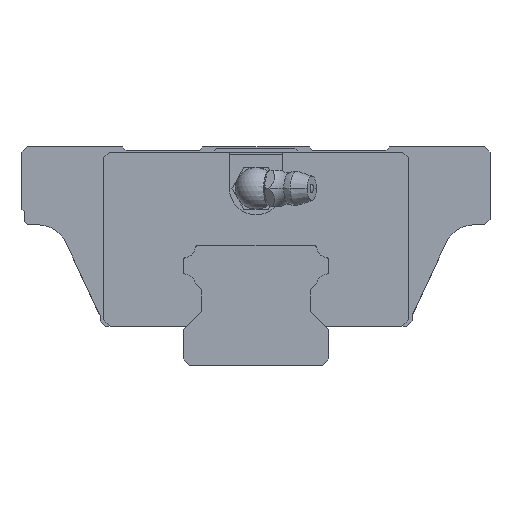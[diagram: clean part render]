
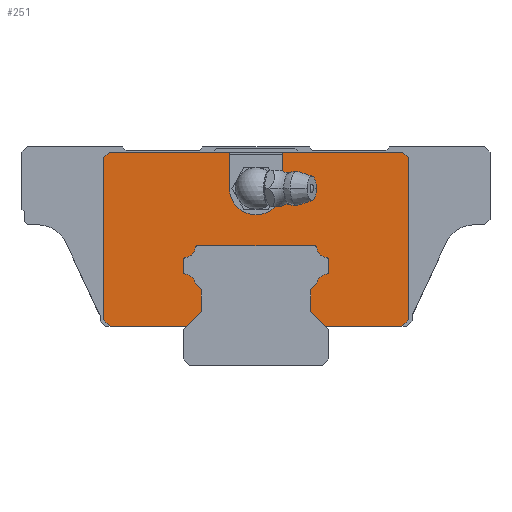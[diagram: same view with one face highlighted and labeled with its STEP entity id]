
A CAD part, front view. The second image highlights one B-rep face of the part: STEP entity #251.
In plain terms, the highlighted planar face has unit normal (0, -1, 0).
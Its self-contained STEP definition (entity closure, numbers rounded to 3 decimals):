
#251=ADVANCED_FACE('',(#605),#606,.F.);
#605=FACE_OUTER_BOUND('',#1171,.T.);
#606=PLANE('',#1172);
#1171=EDGE_LOOP('',(#2363,#2364,#2365,#2366,#2367,#2368,#2369,#2370,#2371,#2372,#2373,#2374,#2375,#2376,#2377,#2378,#2379,#2380,#2381,#2382,#2383,#2384,#2385,#2386,#2387,#2388,#2389,#2390,#2391,#2392,#2393,#2394,#2395));
#1172=AXIS2_PLACEMENT_3D('',#2396,#2397,#2398);
#2363=ORIENTED_EDGE('',*,*,#4253,.F.);
#2364=ORIENTED_EDGE('',*,*,#4216,.T.);
#2365=ORIENTED_EDGE('',*,*,#4254,.T.);
#2366=ORIENTED_EDGE('',*,*,#4255,.T.);
#2367=ORIENTED_EDGE('',*,*,#4256,.T.);
#2368=ORIENTED_EDGE('',*,*,#4257,.T.);
#2369=ORIENTED_EDGE('',*,*,#4239,.F.);
#2370=ORIENTED_EDGE('',*,*,#4199,.F.);
#2371=ORIENTED_EDGE('',*,*,#3982,.F.);
#2372=ORIENTED_EDGE('',*,*,#4221,.F.);
#2373=ORIENTED_EDGE('',*,*,#4258,.T.);
#2374=ORIENTED_EDGE('',*,*,#4186,.T.);
#2375=ORIENTED_EDGE('',*,*,#4006,.T.);
#2376=ORIENTED_EDGE('',*,*,#4259,.T.);
#2377=ORIENTED_EDGE('',*,*,#4072,.T.);
#2378=ORIENTED_EDGE('',*,*,#4209,.F.);
#2379=ORIENTED_EDGE('',*,*,#4160,.F.);
#2380=ORIENTED_EDGE('',*,*,#4260,.F.);
#2381=ORIENTED_EDGE('',*,*,#4261,.F.);
#2382=ORIENTED_EDGE('',*,*,#4262,.F.);
#2383=ORIENTED_EDGE('',*,*,#4263,.F.);
#2384=ORIENTED_EDGE('',*,*,#4264,.F.);
#2385=ORIENTED_EDGE('',*,*,#4096,.F.);
#2386=ORIENTED_EDGE('',*,*,#4265,.F.);
#2387=ORIENTED_EDGE('',*,*,#4266,.F.);
#2388=ORIENTED_EDGE('',*,*,#4267,.F.);
#2389=ORIENTED_EDGE('',*,*,#4020,.F.);
#2390=ORIENTED_EDGE('',*,*,#4015,.F.);
#2391=ORIENTED_EDGE('',*,*,#4023,.F.);
#2392=ORIENTED_EDGE('',*,*,#4268,.F.);
#2393=ORIENTED_EDGE('',*,*,#4269,.F.);
#2394=ORIENTED_EDGE('',*,*,#4270,.F.);
#2395=ORIENTED_EDGE('',*,*,#4155,.F.);
#2396=CARTESIAN_POINT('',(44.9,-26.3,24.35));
#2397=DIRECTION('',(0.0,1.0,0.0));
#2398=DIRECTION('',(1.0,0.0,0.0));
#3982=EDGE_CURVE('',#4802,#4798,#4804,.T.);
#4006=EDGE_CURVE('',#4847,#4844,#4848,.T.);
#4015=EDGE_CURVE('',#4863,#4865,#4866,.T.);
#4020=EDGE_CURVE('',#4865,#4871,#4874,.T.);
#4023=EDGE_CURVE('',#4877,#4863,#4879,.T.);
#4072=EDGE_CURVE('',#4975,#4973,#4976,.T.);
#4096=EDGE_CURVE('',#5015,#5017,#5018,.T.);
#4155=EDGE_CURVE('',#5121,#5117,#5123,.T.);
#4160=EDGE_CURVE('',#5130,#5126,#5132,.T.);
#4186=EDGE_CURVE('',#5177,#4847,#5178,.T.);
#4199=EDGE_CURVE('',#4798,#5197,#5198,.T.);
#4209=EDGE_CURVE('',#5126,#4973,#5210,.T.);
#4216=EDGE_CURVE('',#5211,#5217,#5219,.T.);
#4221=EDGE_CURVE('',#5226,#4802,#5228,.T.);
#4239=EDGE_CURVE('',#5197,#5245,#5253,.T.);
#4253=EDGE_CURVE('',#5211,#5121,#5271,.T.);
#4254=EDGE_CURVE('',#5217,#5272,#5273,.T.);
#4255=EDGE_CURVE('',#5272,#5274,#5275,.T.);
#4256=EDGE_CURVE('',#5274,#5276,#5277,.T.);
#4257=EDGE_CURVE('',#5276,#5245,#5278,.T.);
#4258=EDGE_CURVE('',#5226,#5177,#5279,.T.);
#4259=EDGE_CURVE('',#4844,#4975,#5280,.T.);
#4260=EDGE_CURVE('',#5281,#5130,#5282,.T.);
#4261=EDGE_CURVE('',#5283,#5281,#5284,.T.);
#4262=EDGE_CURVE('',#5285,#5283,#5286,.T.);
#4263=EDGE_CURVE('',#5287,#5285,#5288,.T.);
#4264=EDGE_CURVE('',#5017,#5287,#5289,.T.);
#4265=EDGE_CURVE('',#5290,#5015,#5291,.T.);
#4266=EDGE_CURVE('',#5292,#5290,#5293,.T.);
#4267=EDGE_CURVE('',#4871,#5292,#5294,.T.);
#4268=EDGE_CURVE('',#5295,#4877,#5296,.T.);
#4269=EDGE_CURVE('',#5297,#5295,#5298,.T.);
#4270=EDGE_CURVE('',#5117,#5297,#5299,.T.);
#4798=VERTEX_POINT('',#6053);
#4802=VERTEX_POINT('',#6058);
#4804=CIRCLE('',#6061,5.1);
#4844=VERTEX_POINT('',#6112);
#4847=VERTEX_POINT('',#6116);
#4848=LINE('',#6117,#6118);
#4863=VERTEX_POINT('',#6147);
#4865=VERTEX_POINT('',#6150);
#4866=CIRCLE('',#6151,0.5);
#4871=VERTEX_POINT('',#6162);
#4874=CIRCLE('',#6166,2.0);
#4877=VERTEX_POINT('',#6170);
#4879=LINE('',#6173,#6174);
#4973=VERTEX_POINT('',#6313);
#4975=VERTEX_POINT('',#6316);
#4976=LINE('',#6317,#6318);
#5015=VERTEX_POINT('',#6383);
#5017=VERTEX_POINT('',#6386);
#5018=CIRCLE('',#6387,2.0);
#5117=VERTEX_POINT('',#6534);
#5121=VERTEX_POINT('',#6540);
#5123=LINE('',#6543,#6544);
#5126=VERTEX_POINT('',#6547);
#5130=VERTEX_POINT('',#6553);
#5132=LINE('',#6556,#6557);
#5177=VERTEX_POINT('',#6619);
#5178=LINE('',#6620,#6621);
#5197=VERTEX_POINT('',#6649);
#5198=CIRCLE('',#6650,5.1);
#5210=LINE('',#6668,#6669);
#5211=VERTEX_POINT('',#6670);
#5217=VERTEX_POINT('',#6681);
#5219=LINE('',#6684,#6685);
#5226=VERTEX_POINT('',#6695);
#5228=LINE('',#6698,#6699);
#5245=VERTEX_POINT('',#6724);
#5253=LINE('',#6736,#6737);
#5271=LINE('',#6765,#6766);
#5272=VERTEX_POINT('',#6767);
#5273=LINE('',#6768,#6769);
#5274=VERTEX_POINT('',#6770);
#5275=LINE('',#6771,#6772);
#5276=VERTEX_POINT('',#6773);
#5277=LINE('',#6774,#6775);
#5278=LINE('',#6776,#6777);
#5279=LINE('',#6778,#6779);
#5280=LINE('',#6780,#6781);
#5281=VERTEX_POINT('',#6782);
#5282=LINE('',#6783,#6784);
#5283=VERTEX_POINT('',#6785);
#5284=CIRCLE('',#6786,2.0);
#5285=VERTEX_POINT('',#6787);
#5286=CIRCLE('',#6788,0.5);
#5287=VERTEX_POINT('',#6789);
#5288=LINE('',#6790,#6791);
#5289=CIRCLE('',#6792,0.5);
#5290=VERTEX_POINT('',#6793);
#5291=CIRCLE('',#6794,0.5);
#5292=VERTEX_POINT('',#6795);
#5293=LINE('',#6796,#6797);
#5294=CIRCLE('',#6798,0.5);
#5295=VERTEX_POINT('',#6799);
#5296=CIRCLE('',#6800,0.5);
#5297=VERTEX_POINT('',#6801);
#5298=CIRCLE('',#6802,2.0);
#5299=LINE('',#6803,#6804);
#6053=CARTESIAN_POINT('',(0.,-26.3,28.9));
#6058=CARTESIAN_POINT('',(-5.1,-26.3,34.0));
#6061=AXIS2_PLACEMENT_3D('',#7891,#7892,#7893);
#6112=CARTESIAN_POINT('',(-29.25,-26.3,8.7));
#6116=CARTESIAN_POINT('',(-29.25,-26.3,40.0));
#6117=CARTESIAN_POINT('',(-29.25,-26.3,40.0));
#6118=VECTOR('',#7939,1000.0);
#6147=CARTESIAN_POINT('',(14.,-26.3,20.226));
#6150=CARTESIAN_POINT('',(13.536,-26.3,20.725));
#6151=AXIS2_PLACEMENT_3D('',#7946,#7947,#7948);
#6162=CARTESIAN_POINT('',(11.699,-26.3,22.544));
#6166=AXIS2_PLACEMENT_3D('',#7953,#7954,#7955);
#6170=CARTESIAN_POINT('',(14.,-26.3,17.995));
#6173=CARTESIAN_POINT('',(14.,-26.3,24.35));
#6174=VECTOR('',#7958,1000.0);
#6313=CARTESIAN_POINT('',(-13.3,-26.3,7.5));
#6316=CARTESIAN_POINT('',(-28.05,-26.3,7.5));
#6317=CARTESIAN_POINT('',(-28.05,-26.3,7.5));
#6318=VECTOR('',#8011,1000.0);
#6383=CARTESIAN_POINT('',(-11.699,-26.3,22.544));
#6386=CARTESIAN_POINT('',(-13.536,-26.3,20.725));
#6387=AXIS2_PLACEMENT_3D('',#8039,#8040,#8041);
#6534=CARTESIAN_POINT('',(10.5,-26.3,14.502));
#6540=CARTESIAN_POINT('',(10.5,-26.3,10.3));
#6543=CARTESIAN_POINT('',(10.5,-26.3,24.35));
#6544=VECTOR('',#8120,1000.0);
#6547=CARTESIAN_POINT('',(-10.5,-26.3,10.3));
#6553=CARTESIAN_POINT('',(-10.5,-26.3,14.502));
#6556=CARTESIAN_POINT('',(-10.5,-26.3,24.35));
#6557=VECTOR('',#8127,1000.0);
#6619=CARTESIAN_POINT('',(-28.25,-26.3,41.0));
#6620=CARTESIAN_POINT('',(-28.25,-26.3,41.0));
#6621=VECTOR('',#8169,1000.0);
#6649=CARTESIAN_POINT('',(5.1,-26.3,34.0));
#6650=AXIS2_PLACEMENT_3D('',#8188,#8189,#8190);
#6668=CARTESIAN_POINT('',(24.225,-26.3,45.025));
#6669=VECTOR('',#8206,1000.0);
#6670=CARTESIAN_POINT('',(13.3,-26.3,7.5));
#6681=CARTESIAN_POINT('',(28.05,-26.3,7.5));
#6684=CARTESIAN_POINT('',(-28.05,-26.3,7.5));
#6685=VECTOR('',#8213,1000.0);
#6695=CARTESIAN_POINT('',(-5.1,-26.3,41.0));
#6698=CARTESIAN_POINT('',(-5.1,-26.3,41.0));
#6699=VECTOR('',#8218,1000.0);
#6724=CARTESIAN_POINT('',(5.1,-26.3,41.0));
#6736=CARTESIAN_POINT('',(5.1,-26.3,34.0));
#6737=VECTOR('',#8246,1000.0);
#6765=CARTESIAN_POINT('',(20.675,-26.3,0.125));
#6766=VECTOR('',#8266,1000.0);
#6767=CARTESIAN_POINT('',(29.25,-26.3,8.7));
#6768=CARTESIAN_POINT('',(28.05,-26.3,7.5));
#6769=VECTOR('',#8267,1000.0);
#6770=CARTESIAN_POINT('',(29.25,-26.3,40.0));
#6771=CARTESIAN_POINT('',(29.25,-26.3,8.7));
#6772=VECTOR('',#8268,1000.0);
#6773=CARTESIAN_POINT('',(28.25,-26.3,41.0));
#6774=CARTESIAN_POINT('',(29.25,-26.3,40.0));
#6775=VECTOR('',#8269,1000.0);
#6776=CARTESIAN_POINT('',(28.25,-26.3,41.0));
#6777=VECTOR('',#8270,1000.0);
#6778=CARTESIAN_POINT('',(28.25,-26.3,41.0));
#6779=VECTOR('',#8271,1000.0);
#6780=CARTESIAN_POINT('',(-29.25,-26.3,8.7));
#6781=VECTOR('',#8272,1000.0);
#6782=CARTESIAN_POINT('',(-11.701,-26.3,15.703));
#6783=CARTESIAN_POINT('',(12.276,-26.3,-8.274));
#6784=VECTOR('',#8273,1000.0);
#6785=CARTESIAN_POINT('',(-13.536,-26.3,17.496));
#6786=AXIS2_PLACEMENT_3D('',#8274,#8275,#8276);
#6787=CARTESIAN_POINT('',(-14.,-26.3,17.995));
#6788=AXIS2_PLACEMENT_3D('',#8277,#8278,#8279);
#6789=CARTESIAN_POINT('',(-14.,-26.3,20.226));
#6790=CARTESIAN_POINT('',(-14.,-26.3,24.35));
#6791=VECTOR('',#8280,1000.0);
#6792=AXIS2_PLACEMENT_3D('',#8281,#8282,#8283);
#6793=CARTESIAN_POINT('',(-11.201,-26.3,23.0));
#6794=AXIS2_PLACEMENT_3D('',#8284,#8285,#8286);
#6795=CARTESIAN_POINT('',(11.201,-26.3,23.0));
#6796=CARTESIAN_POINT('',(44.9,-26.3,23.0));
#6797=VECTOR('',#8287,1000.0);
#6798=AXIS2_PLACEMENT_3D('',#8288,#8289,#8290);
#6799=CARTESIAN_POINT('',(13.536,-26.3,17.496));
#6800=AXIS2_PLACEMENT_3D('',#8291,#8292,#8293);
#6801=CARTESIAN_POINT('',(11.701,-26.3,15.703));
#6802=AXIS2_PLACEMENT_3D('',#8294,#8295,#8296);
#6803=CARTESIAN_POINT('',(32.624,-26.3,36.626));
#6804=VECTOR('',#8297,1000.0);
#7891=CARTESIAN_POINT('',(0.0,-26.3,34.0));
#7892=DIRECTION('',(0.0,-1.0,0.0));
#7893=DIRECTION('',(-1.0,0.0,0.0));
#7939=DIRECTION('',(0.0,0.0,-1.0));
#7946=CARTESIAN_POINT('',(13.5,-26.3,20.226));
#7947=DIRECTION('',(0.0,-1.0,0.0));
#7948=DIRECTION('',(0.0,0.0,1.0));
#7953=CARTESIAN_POINT('',(13.691,-26.3,22.719));
#7954=DIRECTION('',(0.0,1.0,0.0));
#7955=DIRECTION('',(0.0,0.0,1.0));
#7958=DIRECTION('',(0.0,0.0,1.0));
#8011=DIRECTION('',(1.0,0.0,0.0));
#8039=CARTESIAN_POINT('',(-13.691,-26.3,22.719));
#8040=DIRECTION('',(0.0,1.0,0.0));
#8041=DIRECTION('',(0.0,0.0,1.0));
#8120=DIRECTION('',(0.0,0.0,1.0));
#8127=DIRECTION('',(0.0,0.0,-1.0));
#8169=DIRECTION('',(-0.707,0.0,-0.707));
#8188=CARTESIAN_POINT('',(0.0,-26.3,34.0));
#8189=DIRECTION('',(0.0,-1.0,0.0));
#8190=DIRECTION('',(-1.0,0.0,0.0));
#8206=DIRECTION('',(-0.707,0.0,-0.707));
#8213=DIRECTION('',(1.0,0.0,0.0));
#8218=DIRECTION('',(0.0,0.0,-1.0));
#8246=DIRECTION('',(0.0,0.0,1.0));
#8266=DIRECTION('',(-0.707,0.0,0.707));
#8267=DIRECTION('',(0.707,0.0,0.707));
#8268=DIRECTION('',(0.0,0.0,1.0));
#8269=DIRECTION('',(-0.707,0.0,0.707));
#8270=DIRECTION('',(-1.0,0.0,0.0));
#8271=DIRECTION('',(-1.0,0.0,0.0));
#8272=DIRECTION('',(0.707,0.0,-0.707));
#8273=DIRECTION('',(0.707,0.0,-0.707));
#8274=CARTESIAN_POINT('',(-13.691,-26.3,15.502));
#8275=DIRECTION('',(0.0,1.0,0.0));
#8276=DIRECTION('',(0.0,0.0,1.0));
#8277=CARTESIAN_POINT('',(-13.5,-26.3,17.995));
#8278=DIRECTION('',(0.0,-1.0,0.0));
#8279=DIRECTION('',(0.0,0.0,1.0));
#8280=DIRECTION('',(0.0,0.0,-1.0));
#8281=CARTESIAN_POINT('',(-13.5,-26.3,20.226));
#8282=DIRECTION('',(0.0,-1.0,0.0));
#8283=DIRECTION('',(0.0,0.0,1.0));
#8284=CARTESIAN_POINT('',(-11.201,-26.3,22.5));
#8285=DIRECTION('',(0.0,-1.0,0.0));
#8286=DIRECTION('',(0.0,0.0,1.0));
#8287=DIRECTION('',(-1.0,0.0,0.));
#8288=CARTESIAN_POINT('',(11.201,-26.3,22.5));
#8289=DIRECTION('',(0.0,-1.0,0.0));
#8290=DIRECTION('',(0.0,0.0,1.0));
#8291=CARTESIAN_POINT('',(13.5,-26.3,17.995));
#8292=DIRECTION('',(0.0,-1.0,0.0));
#8293=DIRECTION('',(0.0,0.0,1.0));
#8294=CARTESIAN_POINT('',(13.691,-26.3,15.502));
#8295=DIRECTION('',(0.0,1.0,0.0));
#8296=DIRECTION('',(0.0,0.0,1.0));
#8297=DIRECTION('',(0.707,0.0,0.707));
